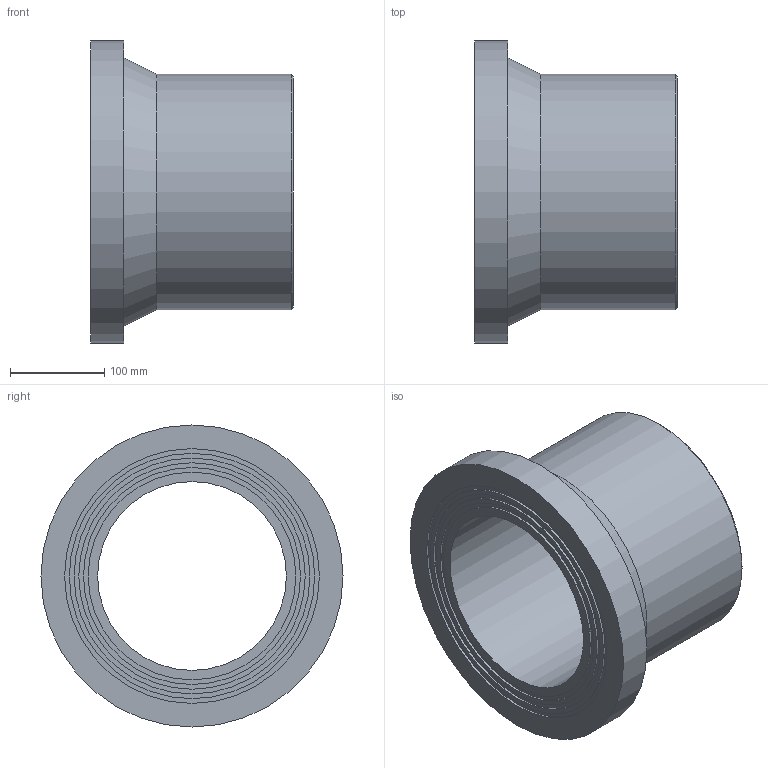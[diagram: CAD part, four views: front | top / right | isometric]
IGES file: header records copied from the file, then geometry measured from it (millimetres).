
Global section: file name: 490207250.ipt; native system: Autodesk Inventor 2015; preprocessor: unknown; author: Кирилл,,11,0; organization: 20170718.095537; date: 20190331.185826; units: millimetre
Bounding box: 215 x 320 x 320 mm (x, y, z)
Volume: 5116623.6 mm3; surface area: 410740.1 mm2
Topology: 1 solids, 1 shells, 20 faces, 33 edges, 22 vertices
Faces by surface type: plane 9, cylinder 5, revolution 4, cone 2
Full cylindrical faces by diameter (mm): 220 x1, 240 x1, 250 x1, 260 x1, 320 x1
